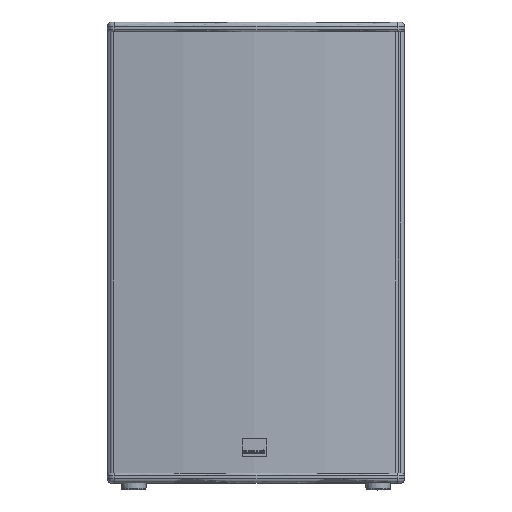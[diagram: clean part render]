
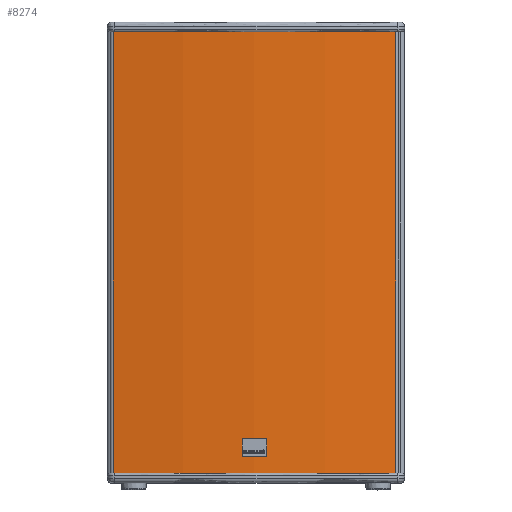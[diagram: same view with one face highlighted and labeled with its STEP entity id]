
A CAD part, top view. The second image highlights one B-rep face of the part: STEP entity #8274.
In plain terms, the highlighted cylindrical face has radius 1269.12 mm (diameter 2538.25 mm), a partial arc.
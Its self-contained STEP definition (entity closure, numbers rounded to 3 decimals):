
#2400 = AXIS2_PLACEMENT_3D ( 'NONE', #2459, #2458, #2457 ) ;
#2401 = CYLINDRICAL_SURFACE ( 'NONE', #2400, 1269.125 ) ;
#2402 = FACE_OUTER_BOUND ( 'NONE', #8268, .T. ) ;
#2403 = CARTESIAN_POINT ( 'NONE',  ( 8.573, 25.16, 0. ) ) ;
#2451 = CARTESIAN_POINT ( 'NONE',  ( 436.427, 25.16, 0. ) ) ;
#2452 = DIRECTION ( 'NONE',  ( 1., 0., 0. ) ) ;
#2453 = DIRECTION ( 'NONE',  ( 0., 0., 1. ) ) ;
#2454 = CARTESIAN_POINT ( 'NONE',  ( 222.5, 1276.125, 0. ) ) ;
#2455 = AXIS2_PLACEMENT_3D ( 'NONE', #2454, #2453, #2452 ) ;
#2456 = CIRCLE ( 'NONE', #2455, 1269.125 ) ;
#2457 = DIRECTION ( 'NONE',  ( 1., 0., 0. ) ) ;
#2458 = DIRECTION ( 'NONE',  ( 0., 0., 1. ) ) ;
#2459 = CARTESIAN_POINT ( 'NONE',  ( 222.5, 1276.125, 0. ) ) ;
#2521 = LINE ( 'NONE', #2581, #2580 ) ;
#2568 = DIRECTION ( 'NONE',  ( 0., 0., 1. ) ) ;
#2569 = VECTOR ( 'NONE', #2568, 1000. ) ;
#2570 = CARTESIAN_POINT ( 'NONE',  ( 8.573, 25.16, 0. ) ) ;
#2571 = LINE ( 'NONE', #2570, #2569 ) ;
#2572 = CARTESIAN_POINT ( 'NONE',  ( 8.573, 25.16, 668. ) ) ;
#2573 = DIRECTION ( 'NONE',  ( 1., 0., 0. ) ) ;
#2574 = DIRECTION ( 'NONE',  ( 0., 0., 1. ) ) ;
#2575 = CARTESIAN_POINT ( 'NONE',  ( 222.5, 1276.125, 668. ) ) ;
#2576 = AXIS2_PLACEMENT_3D ( 'NONE', #2575, #2574, #2573 ) ;
#2577 = CIRCLE ( 'NONE', #2576, 1269.125 ) ;
#2578 = CARTESIAN_POINT ( 'NONE',  ( 436.427, 25.16, 668. ) ) ;
#2579 = DIRECTION ( 'NONE',  ( 0., 0., -1. ) ) ;
#2580 = VECTOR ( 'NONE', #2579, 1000. ) ;
#2581 = CARTESIAN_POINT ( 'NONE',  ( 436.427, 25.16, 0. ) ) ;
#8268 = EDGE_LOOP ( 'NONE', ( #8269, #8277, #8342, #8345 ) ) ;
#8269 = ORIENTED_EDGE ( 'NONE', *, *, #8275, .T. ) ;
#8270 = VERTEX_POINT ( 'NONE', #2403 ) ;
#8274 = ADVANCED_FACE ( 'NONE', ( #2402 ), #2401, .T. ) ;
#8275 = EDGE_CURVE ( 'NONE', #8270, #8276, #2456, .T. ) ;
#8276 = VERTEX_POINT ( 'NONE', #2451 ) ;
#8277 = ORIENTED_EDGE ( 'NONE', *, *, #8340, .F. ) ;
#8340 = EDGE_CURVE ( 'NONE', #8341, #8276, #2521, .T. ) ;
#8341 = VERTEX_POINT ( 'NONE', #2578 ) ;
#8342 = ORIENTED_EDGE ( 'NONE', *, *, #8343, .F. ) ;
#8343 = EDGE_CURVE ( 'NONE', #8344, #8341, #2577, .T. ) ;
#8344 = VERTEX_POINT ( 'NONE', #2572 ) ;
#8345 = ORIENTED_EDGE ( 'NONE', *, *, #8346, .F. ) ;
#8346 = EDGE_CURVE ( 'NONE', #8270, #8344, #2571, .T. ) ;
